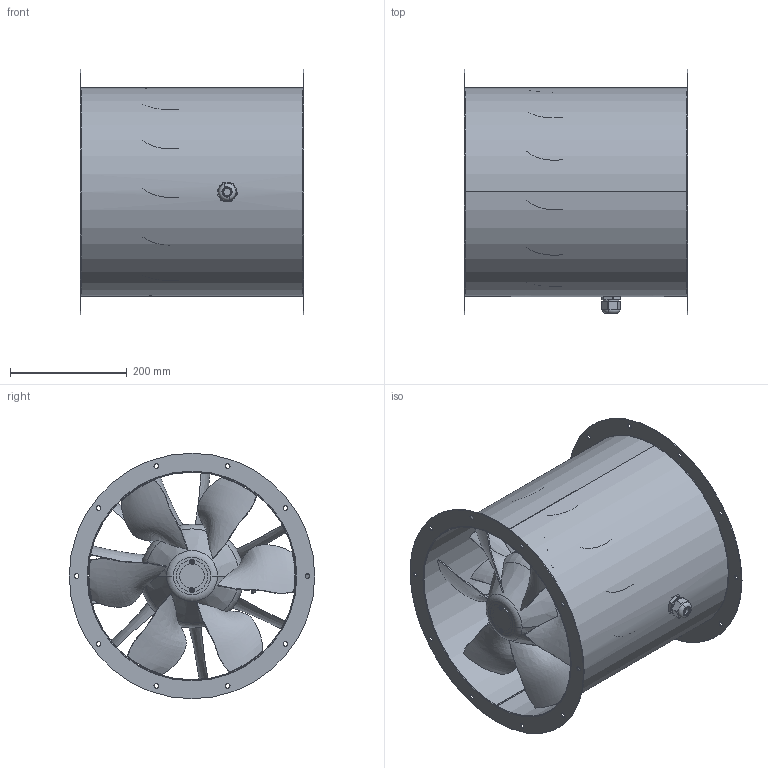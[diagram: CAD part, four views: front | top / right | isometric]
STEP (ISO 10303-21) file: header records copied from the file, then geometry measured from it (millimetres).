
FILE_DESCRIPTION (( 'STEP AP203' ), '1' );
FILE_NAME ('154125-00_AL355D201_step.step', '2020-05-29T10:16:47', ( '' ), ( '' ), 'SwSTEP 2.0', 'SolidWorks 2017', '' );
FILE_SCHEMA (( 'CONFIG_CONTROL_DESIGN' ));
Length unit declared in the file: millimetre
Products named in the file (1): 154125-00_AL355D201_step
Bounding box: 383 x 420 x 420 mm (x, y, z)
Surface area: 1384099.9 mm2 (no closed solid volume)
Topology: 0 solids, 36 shells, 555 faces, 1893 edges, 1336 vertices
Faces by surface type: plane 381, cylinder 104, bspline 37, torus 24, cone 9
Entity records: 245737 total; most frequent: CARTESIAN_POINT 229953, DIRECTION 2964, ORIENTED_EDGE 2891, EDGE_CURVE 1893, LINE 1342, VECTOR 1342, VERTEX_POINT 1336, AXIS2_PLACEMENT_3D 811
